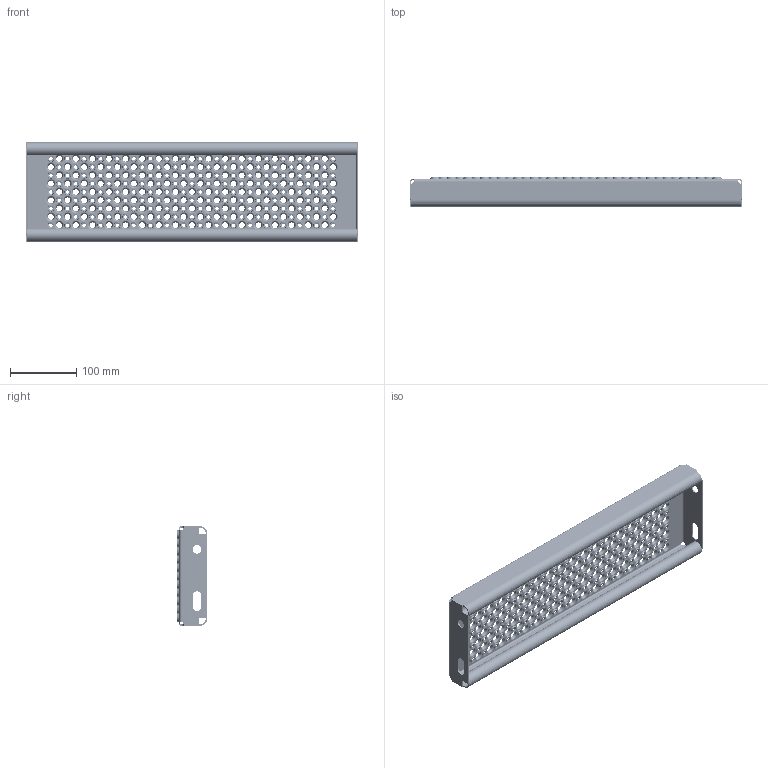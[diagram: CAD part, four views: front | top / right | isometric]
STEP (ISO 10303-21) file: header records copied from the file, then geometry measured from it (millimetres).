
FILE_DESCRIPTION (( 'STEP AP214' ), '1' );
FILE_NAME ('OPTIMO-Tread-Achil-O2-500x150x45x2-st240-F100020100.STEP', '2021-03-15T08:46:11', ( '' ), ( '' ), 'SwSTEP 2.0', 'SolidWorks 2021', '' );
FILE_SCHEMA (( 'AUTOMOTIVE_DESIGN' ));
Length unit declared in the file: millimetre
Products named in the file (1): OPTIMO-Tread-Achil-O2-500x150x45x2-st240-F100020100
Bounding box: 500 x 45 x 150 mm (x, y, z)
Volume: 325089.7 mm3; surface area: 347871.9 mm2
Topology: 1 solids, 1 shells, 3932 faces, 10210 edges, 6280 vertices
Faces by surface type: cone 2310, torus 1540, plane 38, cylinder 36, bspline 8
Entity records: 125344 total; most frequent: DIRECTION 25784, CARTESIAN_POINT 21015, ORIENTED_EDGE 20420, AXIS2_PLACEMENT_3D 11681, EDGE_CURVE 10210, CIRCLE 7756, VERTEX_POINT 6280, EDGE_LOOP 4710
